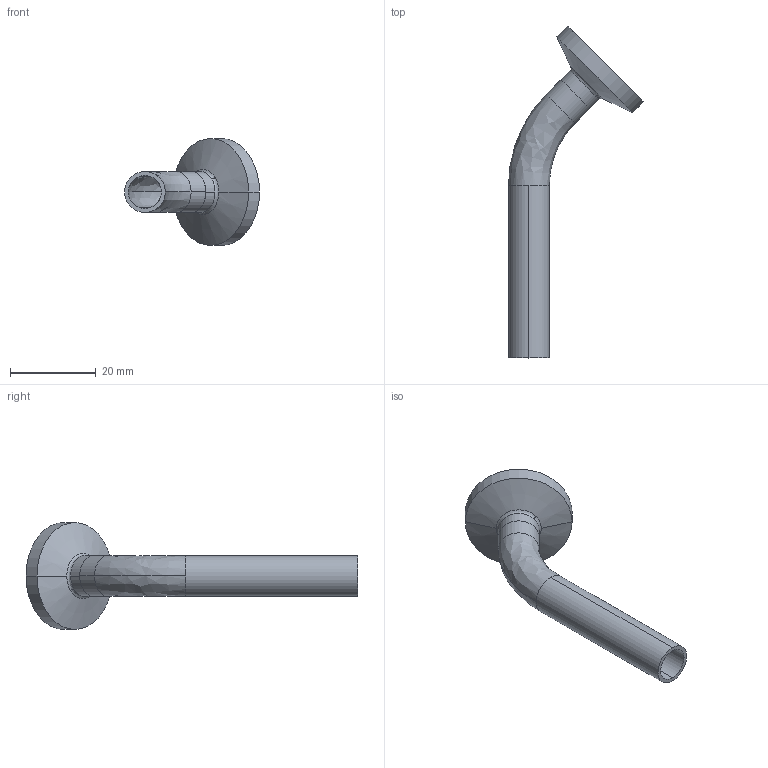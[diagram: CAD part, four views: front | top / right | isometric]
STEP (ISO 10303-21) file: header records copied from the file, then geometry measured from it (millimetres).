
FILE_DESCRIPTION (( 'STEP AP214' ), '1' );
FILE_NAME ('TE2KC6L.375-...STEP', '2016-05-22T06:27:26', ( 'eran' ), ( '' ), 'SwSTEP 2.0', 'SolidWorks 2016', '' );
FILE_SCHEMA (( 'AUTOMOTIVE_DESIGN' ));
Length unit declared in the file: millimetre
Products named in the file (1): TE2KC6L.375-..
Bounding box: 31.56 x 77.6 x 24.99 mm (x, y, z)
Volume: 3453.8 mm3; surface area: 5252 mm2
Topology: 2 solids, 2 shells, 37 faces, 90 edges, 58 vertices
Faces by surface type: cylinder 16, bspline 12, plane 5, cone 4
Entity records: 1305 total; most frequent: CARTESIAN_POINT 378, DIRECTION 204, ORIENTED_EDGE 180, AXIS2_PLACEMENT_3D 92, EDGE_CURVE 90, CIRCLE 66, VERTEX_POINT 58, EDGE_LOOP 42
